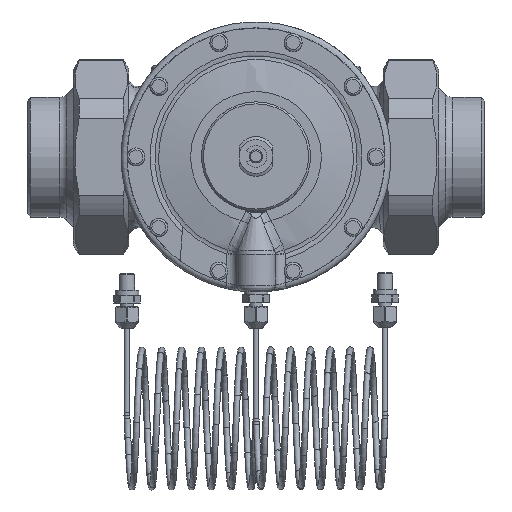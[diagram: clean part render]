
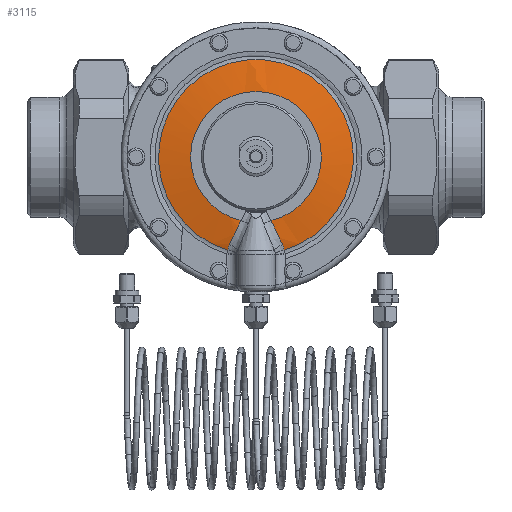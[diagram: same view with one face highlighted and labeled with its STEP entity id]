
A CAD part, top view. The second image highlights one B-rep face of the part: STEP entity #3115.
In plain terms, the highlighted free-form (B-spline) face has degree [3, 3] with [4, 7] control points.
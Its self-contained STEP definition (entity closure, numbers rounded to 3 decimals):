
#170=(
BOUNDED_SURFACE()
B_SPLINE_SURFACE(3,3,((#18313,#18314,#18315,#18316,#18317,#18318,#18319),
(#18320,#18321,#18322,#18323,#18324,#18325,#18326),(#18327,#18328,#18329,
#18330,#18331,#18332,#18333),(#18334,#18335,#18336,#18337,#18338,#18339,
#18340)),.UNSPECIFIED.,.F.,.F.,.F.)
B_SPLINE_SURFACE_WITH_KNOTS((4,4),(4,3,4),(0.,1.),(0.,0.5,1.),.UNSPECIFIED.)
GEOMETRIC_REPRESENTATION_ITEM()
RATIONAL_B_SPLINE_SURFACE(((1.,0.398,0.398,1.,0.398,
0.398,1.),(0.991,0.395,0.395,
0.991,0.395,0.395,0.991),
(0.991,0.395,0.395,0.991,
0.395,0.395,0.991),(1.,0.398,
0.398,1.,0.398,0.398,1.)))
REPRESENTATION_ITEM('')
SURFACE()
);
#2069=CIRCLE('',#11828,32.941);
#2085=CIRCLE('',#11849,49.087);
#2742=B_SPLINE_CURVE_WITH_KNOTS('',3,(#18295,#18296,#18297,#18298),.UNSPECIFIED.,
 .F.,.F.,(4,4),(0.,1.),.UNSPECIFIED.);
#2743=B_SPLINE_CURVE_WITH_KNOTS('',3,(#18300,#18301,#18302,#18303),.UNSPECIFIED.,
 .F.,.F.,(4,4),(0.,1.),.UNSPECIFIED.);
#2744=B_SPLINE_CURVE_WITH_KNOTS('',3,(#18304,#18305,#18306,#18307),.UNSPECIFIED.,
 .F.,.F.,(4,4),(0.,1.),.UNSPECIFIED.);
#2745=B_SPLINE_CURVE_WITH_KNOTS('',3,(#18309,#18310,#18311,#18312),.UNSPECIFIED.,
 .F.,.F.,(4,4),(0.,1.),.UNSPECIFIED.);
#3115=ADVANCED_FACE('',(#4095),#170,.T.);
#4095=FACE_OUTER_BOUND('',#4652,.T.);
#4652=EDGE_LOOP('',(#6403,#6404,#6405,#6406,#6407,#6408));
#6403=ORIENTED_EDGE('',*,*,#9869,.T.);
#6404=ORIENTED_EDGE('',*,*,#9870,.T.);
#6405=ORIENTED_EDGE('',*,*,#9871,.T.);
#6406=ORIENTED_EDGE('',*,*,#9832,.T.);
#6407=ORIENTED_EDGE('',*,*,#9872,.T.);
#6408=ORIENTED_EDGE('',*,*,#9873,.T.);
#8703=VERTEX_POINT('',#18087);
#8704=VERTEX_POINT('',#18089);
#8734=VERTEX_POINT('',#18293);
#8735=VERTEX_POINT('',#18294);
#8736=VERTEX_POINT('',#18299);
#8737=VERTEX_POINT('',#18308);
#9832=EDGE_CURVE('',#8704,#8703,#2069,.T.);
#9869=EDGE_CURVE('',#8734,#8735,#2085,.T.);
#9870=EDGE_CURVE('',#8735,#8736,#2742,.T.);
#9871=EDGE_CURVE('',#8736,#8704,#2743,.T.);
#9872=EDGE_CURVE('',#8703,#8737,#2744,.T.);
#9873=EDGE_CURVE('',#8737,#8734,#2745,.T.);
#11828=AXIS2_PLACEMENT_3D('',#18088,#13919,#13920);
#11849=AXIS2_PLACEMENT_3D('',#18292,#13969,#13970);
#13919=DIRECTION('',(0.,0.,-1.));
#13920=DIRECTION('',(-1.,0.,0.));
#13969=DIRECTION('',(0.,0.,1.));
#13970=DIRECTION('',(-1.,0.,0.));
#18087=CARTESIAN_POINT('',(7.52,-32.071,100.));
#18088=CARTESIAN_POINT('',(0.,0.,100.));
#18089=CARTESIAN_POINT('',(-7.52,-32.071,100.));
#18292=CARTESIAN_POINT('',(0.,0.,97.321));
#18293=CARTESIAN_POINT('',(14.207,-46.986,97.321));
#18294=CARTESIAN_POINT('',(-14.207,-46.986,97.321));
#18295=CARTESIAN_POINT('',(-14.207,-46.986,97.321));
#18296=CARTESIAN_POINT('',(-14.1,-45.982,97.66));
#18297=CARTESIAN_POINT('',(-13.828,-45.014,97.968));
#18298=CARTESIAN_POINT('',(-13.389,-44.083,98.245));
#18299=CARTESIAN_POINT('',(-13.389,-44.083,98.245));
#18300=CARTESIAN_POINT('',(-13.389,-44.083,98.245));
#18301=CARTESIAN_POINT('',(-11.521,-40.123,99.424));
#18302=CARTESIAN_POINT('',(-9.483,-36.158,100.));
#18303=CARTESIAN_POINT('',(-7.52,-32.071,100.));
#18304=CARTESIAN_POINT('',(7.52,-32.071,100.));
#18305=CARTESIAN_POINT('',(9.483,-36.158,100.));
#18306=CARTESIAN_POINT('',(11.521,-40.123,99.424));
#18307=CARTESIAN_POINT('',(13.389,-44.083,98.245));
#18308=CARTESIAN_POINT('',(13.389,-44.083,98.245));
#18309=CARTESIAN_POINT('',(13.389,-44.083,98.245));
#18310=CARTESIAN_POINT('',(13.828,-45.014,97.968));
#18311=CARTESIAN_POINT('',(14.1,-45.982,97.66));
#18312=CARTESIAN_POINT('',(14.207,-46.986,97.321));
#18313=CARTESIAN_POINT('',(-9.53,-48.153,97.321));
#18314=CARTESIAN_POINT('',(-89.731,-32.28,97.321));
#18315=CARTESIAN_POINT('',(-81.757,49.087,97.321));
#18316=CARTESIAN_POINT('',(0.,49.087,97.321));
#18317=CARTESIAN_POINT('',(81.757,49.087,97.321));
#18318=CARTESIAN_POINT('',(89.731,-32.28,97.321));
#18319=CARTESIAN_POINT('',(9.53,-48.153,97.321));
#18320=CARTESIAN_POINT('',(-8.519,-43.042,99.099));
#18321=CARTESIAN_POINT('',(-80.207,-28.854,99.099));
#18322=CARTESIAN_POINT('',(-73.079,43.877,99.099));
#18323=CARTESIAN_POINT('',(0.,43.877,99.099));
#18324=CARTESIAN_POINT('',(73.079,43.877,99.099));
#18325=CARTESIAN_POINT('',(80.207,-28.854,99.099));
#18326=CARTESIAN_POINT('',(8.519,-43.042,99.099));
#18327=CARTESIAN_POINT('',(-7.464,-37.715,100.));
#18328=CARTESIAN_POINT('',(-70.28,-25.283,100.));
#18329=CARTESIAN_POINT('',(-64.034,38.446,100.));
#18330=CARTESIAN_POINT('',(0.,38.446,100.));
#18331=CARTESIAN_POINT('',(64.034,38.446,100.));
#18332=CARTESIAN_POINT('',(70.28,-25.283,100.));
#18333=CARTESIAN_POINT('',(7.464,-37.715,100.));
#18334=CARTESIAN_POINT('',(-6.395,-32.314,100.));
#18335=CARTESIAN_POINT('',(-60.217,-21.662,100.));
#18336=CARTESIAN_POINT('',(-54.865,32.941,100.));
#18337=CARTESIAN_POINT('',(0.,32.941,100.));
#18338=CARTESIAN_POINT('',(54.865,32.941,100.));
#18339=CARTESIAN_POINT('',(60.217,-21.662,100.));
#18340=CARTESIAN_POINT('',(6.395,-32.314,100.));
